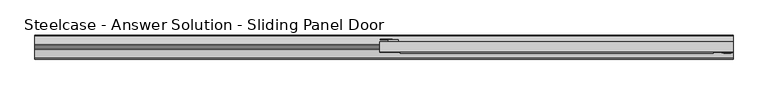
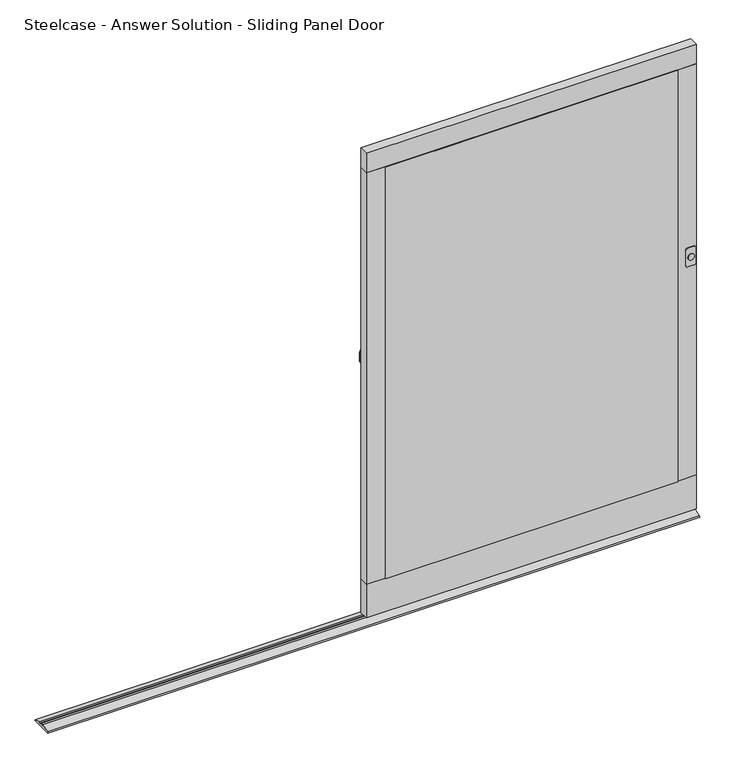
"""IFC4 building model written with IfcOpenShell, lengths in millimetres: furniture geometry."""

import ifcopenshell
import ifcopenshell.guid

model = None  # the IFC model being written
_history = None  # IfcOwnerHistory: only IFC2X3 demands one
_inside = {}  # id of a spatial element -> (the spatial element, [elements in it])
_under = {}  # id of a project, library or spatial element -> (it, [spatial elements below it])
_declared = {}  # id of a project -> (the project, [libraries it declares])
_typed = {}  # id of a type object -> (the type object, [elements of that type])
_made_of = {}  # id of a material, layer set ... -> (it, [elements and type objects made of it])


def new_model(schema):
    """Start an empty IFC model of exactly this schema.

    Asked for "IFC4X3", IfcOpenShell would pick the latest addendum, in which some entities
    have other attributes; the version numbers below select the first issue.
    IFC2X3 requires an IfcOwnerHistory on every rooted entity: one is made here for all.
    """
    global model, _history
    if schema == "IFC4X3":
        model = ifcopenshell.file(schema_version=(4, 3, 0, 0))
    else:
        model = ifcopenshell.file(schema=schema)
    _inside.clear()
    _under.clear()
    _declared.clear()
    _typed.clear()
    _made_of.clear()
    _history = None
    if model.schema == "IFC2X3":
        org = make("IfcOrganization", Name="unknown")
        user = make(
            "IfcPersonAndOrganization",
            ThePerson=make("IfcPerson", FamilyName="unknown"),
            TheOrganization=org,
        )
        app = make(
            "IfcApplication",
            ApplicationDeveloper=org,
            Version="unknown",
            ApplicationFullName="unknown",
            ApplicationIdentifier="unknown",
        )
        _history = make(
            "IfcOwnerHistory",
            OwningUser=user,
            OwningApplication=app,
            ChangeAction="ADDED",
            CreationDate=0,
        )
    return model


def make(cls, **values):
    """One entity of the class cls with the attributes given. An attribute that is None is left unset."""
    return model.create_entity(
        cls, **{name: value for name, value in values.items() if value is not None}
    )


def rooted(cls, **values):
    """An entity with a GlobalId (a new one), such as an element, a storey or a relation."""
    return make(cls, GlobalId=ifcopenshell.guid.new(), OwnerHistory=_history, **values)


def si_unit(unit_type, name, prefix=None):
    """IfcSIUnit, for example si_unit("LENGTHUNIT", "METRE", prefix="MILLI")."""
    return make("IfcSIUnit", UnitType=unit_type, Prefix=prefix, Name=name)


def assignment(units):
    """IfcUnitAssignment: the units of a project."""
    return None if units is None else make("IfcUnitAssignment", Units=units)


def point(xyz):
    """IfcCartesianPoint."""
    return None if xyz is None else make("IfcCartesianPoint", Coordinates=xyz)


def direction(xyz):
    """IfcDirection."""
    return None if xyz is None else make("IfcDirection", DirectionRatios=xyz)


def frame(location, z_axis=None, x_axis=None):
    """IfcAxis2Placement3D, a coordinate frame: its origin and axes. An axis left out is left unset."""
    return make(
        "IfcAxis2Placement3D",
        Location=point(location),
        Axis=direction(z_axis),
        RefDirection=direction(x_axis),
    )


def frame_2d(location, x_axis=None):
    """IfcAxis2Placement2D, a coordinate frame in the plane: its origin and x axis."""
    return make(
        "IfcAxis2Placement2D", Location=point(location), RefDirection=direction(x_axis)
    )


def origin():
    """The frame at (0, 0, 0) with its axes left unset."""
    return frame((0.0, 0.0, 0.0))


def place(relative_to, where):
    """IfcLocalPlacement: puts the frame where relative to a parent placement (None: the world)."""
    return make(
        "IfcLocalPlacement", PlacementRelTo=relative_to, RelativePlacement=where
    )


def context(
    kind, dimensions, precision=None, world=None, true_north=None, identifier=None
):
    """IfcGeometricRepresentationContext, for example the 3D "Model" context."""
    return make(
        "IfcGeometricRepresentationContext",
        ContextIdentifier=identifier,
        ContextType=kind,
        CoordinateSpaceDimension=dimensions,
        Precision=precision,
        WorldCoordinateSystem=world,
        TrueNorth=true_north,
    )


def project(units=None, contexts=None):
    """IfcProject with its units and contexts."""
    return rooted(
        "IfcProject",
        Name="project",
        RepresentationContexts=contexts,
        UnitsInContext=assignment(units),
    )


def spatial(cls, under=None, at=None, **own):
    """A site, building, storey or space (cls), placed at a placement, below another one or the project."""
    s = rooted(cls, ObjectPlacement=at, **own)
    if under is not None:
        _under.setdefault(under.id(), (under, []))[1].append(s)
    return s


def polyline(points):
    """IfcPolyline through the points."""
    return make("IfcPolyline", Points=[point(p) for p in points])


def circle_curve(where, radius):
    """IfcCircle in the frame where."""
    return make("IfcCircle", Position=where, Radius=radius)


def trimmed(basis, trim1, trim2, sense, master):
    """IfcTrimmedCurve: the piece of a basis curve between two trims."""
    return make(
        "IfcTrimmedCurve",
        BasisCurve=basis,
        Trim1=trim1,
        Trim2=trim2,
        SenseAgreement=sense,
        MasterRepresentation=master,
    )


def segment(curve, same_sense, transition):
    """IfcCompositeCurveSegment."""
    return make(
        "IfcCompositeCurveSegment",
        Transition=transition,
        SameSense=same_sense,
        ParentCurve=curve,
    )


def composite_curve(segments, self_intersect=None):
    """IfcCompositeCurve: segments joined end to end."""
    return make("IfcCompositeCurve", Segments=segments, SelfIntersect=self_intersect)


def outline(outer, holes=None, kind="AREA"):
    """IfcArbitraryClosedProfileDef: a profile drawn as a closed curve; with holes, ...WithVoids."""
    if holes is None:
        return make("IfcArbitraryClosedProfileDef", ProfileType=kind, OuterCurve=outer)
    return make(
        "IfcArbitraryProfileDefWithVoids",
        ProfileType=kind,
        OuterCurve=outer,
        InnerCurves=holes,
    )


def extrude(swept, where, along, depth):
    """IfcExtrudedAreaSolid: the profile swept, set in the frame where, extruded along a direction by depth."""
    return make(
        "IfcExtrudedAreaSolid",
        SweptArea=swept,
        Position=where,
        ExtrudedDirection=direction(along),
        Depth=depth,
    )


def shape(context_of_items, identifier, shape_type, items):
    """IfcShapeRepresentation: the items that make up one representation, for example the "Body"."""
    return make(
        "IfcShapeRepresentation",
        ContextOfItems=context_of_items,
        RepresentationIdentifier=identifier,
        RepresentationType=shape_type,
        Items=items,
    )


def source(mapping_origin, context_of_items, identifier, shape_type, items):
    """IfcRepresentationMap: a shape defined once, which mapped items show again and again."""
    return make(
        "IfcRepresentationMap",
        MappingOrigin=mapping_origin,
        MappedRepresentation=shape(context_of_items, identifier, shape_type, items),
    )


def transform(
    local_origin,
    x_axis=None,
    y_axis=None,
    z_axis=None,
    scale=None,
    scale2=None,
    scale3=None,
    uniform=True,
):
    """IfcCartesianTransformationOperator3D, or its non-uniform kind. x_axis, y_axis, z_axis: its Axis1, 2, 3."""
    if uniform:
        return make(
            "IfcCartesianTransformationOperator3D",
            Axis1=direction(x_axis),
            Axis2=direction(y_axis),
            LocalOrigin=point(local_origin),
            Scale=scale,
            Axis3=direction(z_axis),
        )
    return make(
        "IfcCartesianTransformationOperator3DnonUniform",
        Axis1=direction(x_axis),
        Axis2=direction(y_axis),
        LocalOrigin=point(local_origin),
        Scale=scale,
        Axis3=direction(z_axis),
        Scale2=scale2,
        Scale3=scale3,
    )


def mapped(mapping_source, mapping_target):
    """IfcMappedItem: shows the shape of a source again, moved by a transform."""
    return make(
        "IfcMappedItem", MappingSource=mapping_source, MappingTarget=mapping_target
    )


def made_of(thing, what):
    """Note that an element or type object is made of a material, layer set ...; save() writes the relation."""
    if what is not None:
        _made_of.setdefault(what.id(), (what, []))[1].append(thing)
    return thing


def element(
    cls,
    number,
    at=None,
    inside=None,
    cuts=None,
    type_object=None,
    material=None,
    context=None,
    identifier="Body",
    shape_type=None,
    held_by="IfcProductDefinitionShape",
    body=None,
    shapes=None,
    **own,
):
    """One element of the class cls, such as IfcWall. Its Tag is "e" and its number.

    at: its placement. inside: the storey or other place that contains it. cuts: it is an
    opening in that element (IfcRelVoidsElement). A single representation is given by context,
    identifier, shape_type and body (its items); several are given by shapes. held_by: the class
    of the entity that holds the representations. save() writes the other relations.
    """
    e = rooted(cls, Tag="e%d" % number, ObjectPlacement=at, **own)
    if body is not None:
        shapes = [shape(context, identifier, shape_type, body)]
    if shapes is not None:
        e.Representation = make(held_by, Representations=shapes)
    if inside is not None:
        _inside.setdefault(inside.id(), (inside, []))[1].append(e)
    if cuts is not None:
        rooted(
            "IfcRelVoidsElement", RelatingBuildingElement=cuts, RelatedOpeningElement=e
        )
    if type_object is not None:
        _typed.setdefault(type_object.id(), (type_object, []))[1].append(e)
    return made_of(e, material)


def aggregate(whole, parts):
    """IfcRelAggregates: a whole, such as a stair, and the parts it consists of."""
    return rooted("IfcRelAggregates", RelatingObject=whole, RelatedObjects=parts)


def save(model, path):
    """Write the relations noted so far, then the file.

    IfcRelAggregates (storeys below a building ...), IfcRelContainedInSpatialStructure (elements
    in a storey), IfcRelDefinesByType, IfcRelAssociatesMaterial and IfcRelDeclares: one each for
    every whole, place, type object, material and project.
    """
    for whole, parts in _under.values():
        aggregate(whole, parts)
    for where, things in _inside.values():
        rooted(
            "IfcRelContainedInSpatialStructure",
            RelatedElements=things,
            RelatingStructure=where,
        )
    for kind, things in _typed.values():
        rooted("IfcRelDefinesByType", RelatedObjects=things, RelatingType=kind)
    for what, things in _made_of.values():
        rooted("IfcRelAssociatesMaterial", RelatedObjects=things, RelatingMaterial=what)
    for by, libraries in _declared.values():
        rooted("IfcRelDeclares", RelatingContext=by, RelatedDefinitions=libraries)
    model.write(path)


def steelcase_answer_solution_sliding_panel_door_7a8b1a26(model_context):
    return source(origin(), model_context, "Body", "SweptSolid", [
        extrude(outline(composite_curve([segment(trimmed(circle_curve(frame_2d((927.0989028, 2140.2278402)), 10.7468772), [point((927.0989028, 2150.9747174))], [point((927.0989028, 2129.480963))], False, "CARTESIAN"), True, "CONTINUOUS"), segment(trimmed(circle_curve(frame_2d((927.0989028, 2140.2278402)), 10.7468772), [point((927.0989028, 2129.480963))], [point((927.0989028, 2150.9747174))], False, "CARTESIAN"), True, "CONTINUOUS")], self_intersect=False)), frame((0.0, -58.27776, 0.0), z_axis=(0.0, 1.0, 0.0), x_axis=(0.0, 0.0, 1.0)), (0.0, 0.0, 1.0), 2.159),
        extrude(outline(composite_curve([segment(polyline([(958.8489028, 1079.6675713), (958.8489028, 1060.6175713)]), True, "CONTINUOUS"), segment(trimmed(circle_curve(frame_2d((939.7989028, 1060.6175713)), 19.05), [point((958.8489028, 1060.6175713))], [point((939.7989028, 1041.5675713))], False, "CARTESIAN"), True, "CONTINUOUS"), segment(polyline([(939.7989028, 1041.5675713), (914.3989028, 1041.5675713)]), True, "CONTINUOUS"), segment(trimmed(circle_curve(frame_2d((914.3989028, 1060.6175713)), 19.05), [point((914.3989028, 1041.5675713))], [point((895.3489028, 1060.6175713))], False, "CARTESIAN"), True, "CONTINUOUS"), segment(polyline([(895.3489028, 1060.6175713), (895.3489028, 1079.6675713), (908.0489028, 1079.6675713), (908.0489028, 1060.6175713)]), True, "CONTINUOUS"), segment(trimmed(circle_curve(frame_2d((914.3989028, 1060.6175713)), 6.35), [point((908.0489028, 1060.6175713))], [point((914.3989028, 1054.2675713))], True, "CARTESIAN"), True, "CONTINUOUS"), segment(polyline([(914.3989028, 1054.2675713), (939.7989028, 1054.2675713)]), True, "CONTINUOUS"), segment(trimmed(circle_curve(frame_2d((939.7989028, 1060.6175713)), 6.35), [point((939.7989028, 1054.2675713))], [point((946.1489028, 1060.6175713))], True, "CARTESIAN"), True, "CONTINUOUS"), segment(polyline([(946.1489028, 1060.6175713), (946.1489028, 1079.6675713), (958.8489028, 1079.6675713)]), True, "CONTINUOUS")], self_intersect=False)), frame((0.0, -15.6057635, 0.0), z_axis=(0.0, 1.0, 0.0), x_axis=(0.0, 0.0, 1.0)), (0.0, 0.0, 1.0), 2.032),
        extrude(outline(composite_curve([segment(polyline([(960.7539028, 2150.1735), (960.7539028, 2129.8535)]), True, "CONTINUOUS"), segment(trimmed(circle_curve(frame_2d((954.4039028, 2129.8535)), 6.35), [point((960.7539028, 2129.8535))], [point((954.4039028, 2123.5035))], False, "CARTESIAN"), True, "CONTINUOUS"), segment(polyline([(954.4039028, 2123.5035), (899.7939028, 2123.5035)]), True, "CONTINUOUS"), segment(trimmed(circle_curve(frame_2d((899.7939028, 2129.8535)), 6.35), [point((899.7939028, 2123.5035))], [point((893.4439028, 2129.8535))], False, "CARTESIAN"), True, "CONTINUOUS"), segment(polyline([(893.4439028, 2129.8535), (893.4439028, 2150.1735)]), True, "CONTINUOUS"), segment(trimmed(circle_curve(frame_2d((899.7939028, 2150.1735)), 6.35), [point((893.4439028, 2150.1735))], [point((899.7939028, 2156.5235))], False, "CARTESIAN"), True, "CONTINUOUS"), segment(polyline([(899.7939028, 2156.5235), (954.4039028, 2156.5235)]), True, "CONTINUOUS"), segment(trimmed(circle_curve(frame_2d((954.4039028, 2150.1735)), 6.35), [point((954.4039028, 2156.5235))], [point((960.7539028, 2150.1735))], False, "CARTESIAN"), True, "CONTINUOUS")], self_intersect=False)), frame((0.0, -56.11876, 0.0), z_axis=(0.0, 1.0, 0.0), x_axis=(0.0, 0.0, 1.0)), (0.0, 0.0, 1.0), 2.1589722),
        extrude(outline(polyline([(1099.82, -22.2097635), (1066.8, -22.2097635), (1066.8, -15.6057635), (1099.82, -15.6057635), (1099.82, -22.2097635)])), frame((0.0, 0.0, 828.673924), z_axis=(0.0, 0.0, 1.0), x_axis=(1.0, 0.0, 0.0)), (0.0, 0.0, 1.0), 196.85),
        extrude(outline(polyline([(2159.0, -53.9597878), (1041.4, -53.9597878), (1041.4, -22.2097635), (2159.0, -22.2097635), (2159.0, -53.9597878)])), frame((0.0, 0.0, 1610.3589729), z_axis=(0.0, 0.0, 1.0), x_axis=(1.0, 0.0, 0.0)), (0.0, 0.0, 1.0), 69.8499516),
        extrude(outline(polyline([(1104.8999031, -53.9597878), (1041.4, -53.9597878), (1041.4, -22.2097635), (1104.8999031, -22.2097635), (1104.8999031, -53.9597878)])), frame((0.0, 0.0, 137.1589275), z_axis=(0.0, 0.0, 1.0), x_axis=(1.0, 0.0, 0.0)), (0.0, 0.0, 1.0), 1473.2000454),
        extrude(outline(polyline([(2159.0, -53.9597878), (2095.5000969, -53.9597878), (2095.5000969, -22.2097635), (2159.0, -22.2097635), (2159.0, -53.9597878)])), frame((0.0, 0.0, 137.1589275), z_axis=(0.0, 0.0, 1.0), x_axis=(1.0, 0.0, 0.0)), (0.0, 0.0, 1.0), 1473.2000454),
        extrude(outline(polyline([(2159.0, -53.9597878), (1041.4, -53.9597878), (1041.4, -22.2097635), (2159.0, -22.2097635), (2159.0, -53.9597878)])), frame((0.0, 0.0, 16.5089245), z_axis=(0.0, 0.0, 1.0), x_axis=(1.0, 0.0, 0.0)), (0.0, 0.0, 1.0), 120.650003),
        extrude(outline(polyline([(2095.5000969, -53.9597878), (2095.5000969, -57.7514894), (1104.8999031, -57.7514894), (1104.8999031, -53.9597878), (2095.5000969, -53.9597878)])), frame((0.0, 0.0, 137.1589275), z_axis=(0.0, 0.0, 1.0), x_axis=(1.0, 0.0, 0.0)), (0.0, 0.0, 1.0), 1473.2000454),
        extrude(outline(polyline([(-29.8388763, 12.2491055), (-1.9333122, 3.0138476), (0.0, 0.0), (-76.1694786, 0.0), (-74.2361664, 3.0138476), (-46.3306023, 12.2491055), (-46.3306023, 6.2879429), (-39.9806265, 6.2879429), (-39.9806265, 12.6379637), (-36.1889248, 12.6379637), (-36.1889248, 6.2879429), (-29.8388763, 6.2879429), (-29.8388763, 12.2491055)])), frame((-50.8, 0.0, 0.0), z_axis=(1.0, 0.0, 0.0), x_axis=(0.0, 1.0, 0.0)), (0.0, 0.0, 1.0), 2209.8),
    ])


if __name__ == "__main__":
    model = new_model("IFC4")
    model_context = context("Model", 3, world=origin())
    ifc_project = project(units=[si_unit("LENGTHUNIT", "METRE", prefix="MILLI")], contexts=[model_context])
    site = spatial("IfcSite", under=ifc_project)
    building = spatial("IfcBuilding", under=site)
    placement = place(None, origin())
    steelcase_answer_solution_sliding_panel_door_shape = steelcase_answer_solution_sliding_panel_door_7a8b1a26(model_context)
    element("IfcFurniture", 1, ObjectType="Steelcase - Answer Solution - Sliding Panel Door : 66\" x 42\" - Left Door Handle & Lock", at=placement, inside=building, context=model_context, shape_type="MappedRepresentation", body=[
        mapped(steelcase_answer_solution_sliding_panel_door_shape, transform((0.0, 0.0, 0.0), x_axis=(1.0, 0.0, 0.0), y_axis=(0.0, 1.0, 0.0), z_axis=(0.0, 0.0, 1.0))),
    ])
    save(model, "model.ifc")
